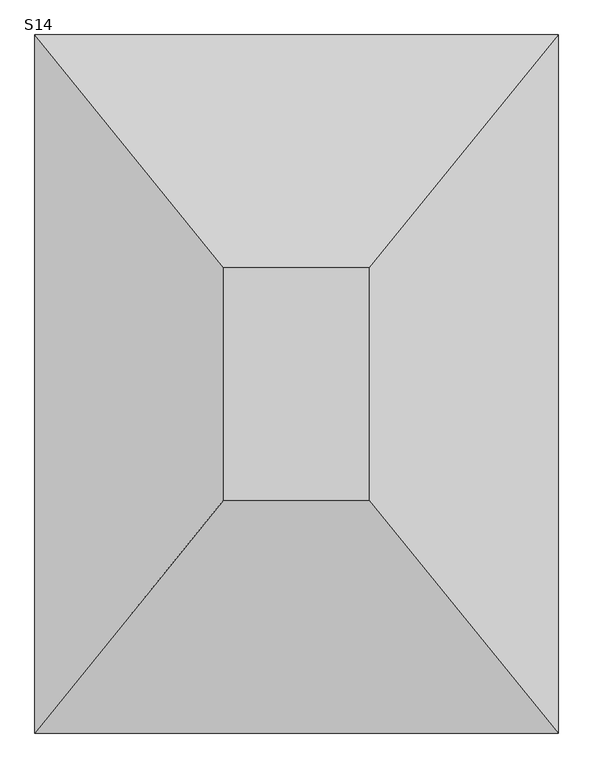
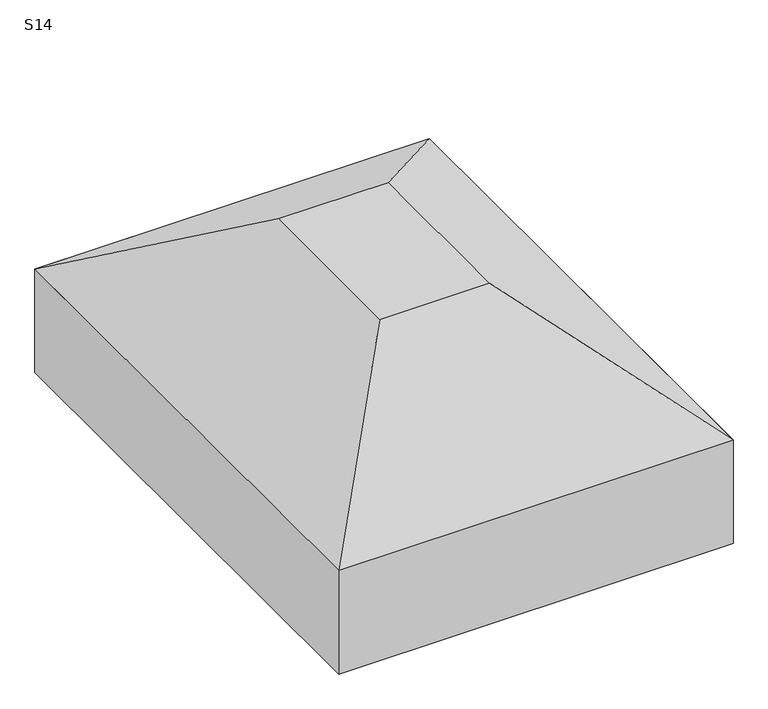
"""IFC4 building model written with IfcOpenShell, lengths in millimetres: fastener geometry, TQS - Sapata : S14."""

from ifc_helpers import new_model, si_unit, frame, origin, place, context, project, spatial, polyline, outline, extrude, faceted_brep, source, transform, mapped, element, save


def s14_25b32baf(model_context):
    return source(origin(), model_context, "Body", "SolidModel", [
        faceted_brep([(-75.0, 0.0, 0.0), (-325.0, 0.0, 0.0), (-325.0, -400.0, 0.0), (-75.0, -400.0, 0.0), (250.0, 400.0, -250.0), (250.0, -800.0, -250.0), (-650.0, -800.0, -250.0), (-650.0, 400.0, -250.0)], [[[0, 1, 2, 3]], [[4, 5, 6, 7]], [[4, 7, 1, 0]], [[7, 6, 2, 1]], [[6, 5, 3, 2]], [[5, 4, 0, 3]]]),
        extrude(outline(polyline([(250.0, 400.0), (250.0, -800.0), (-650.0, -800.0), (-650.0, 400.0), (250.0, 400.0)])), frame((0.0, 0.0, -500.0), z_axis=(0.0, 0.0, 1.0), x_axis=(1.0, 0.0, 0.0)), (0.0, 0.0, 1.0), 250.0),
    ])


if __name__ == "__main__":
    model = new_model("IFC4")
    model_context = context("Model", 3, world=origin())
    ifc_project = project(units=[si_unit("LENGTHUNIT", "METRE", prefix="MILLI")], contexts=[model_context])
    site = spatial("IfcSite", under=ifc_project)
    building = spatial("IfcBuilding", under=site)
    placement = place(None, origin())
    s14_shape = s14_25b32baf(model_context)
    element("IfcFastener", 1, ObjectType="TQS - Sapata : S14", at=placement, inside=building, context=model_context, shape_type="MappedRepresentation", body=[
        mapped(s14_shape, transform((0.0, 0.0, 0.0), x_axis=(1.0, 0.0, 0.0), y_axis=(0.0, 1.0, 0.0), z_axis=(0.0, 0.0, 1.0))),
    ])
    save(model, "model.ifc")
